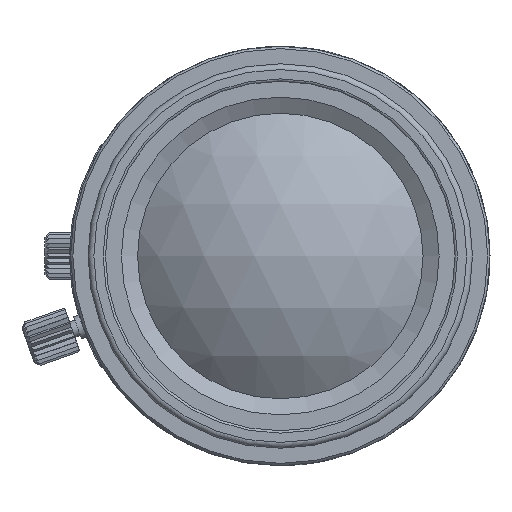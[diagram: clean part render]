
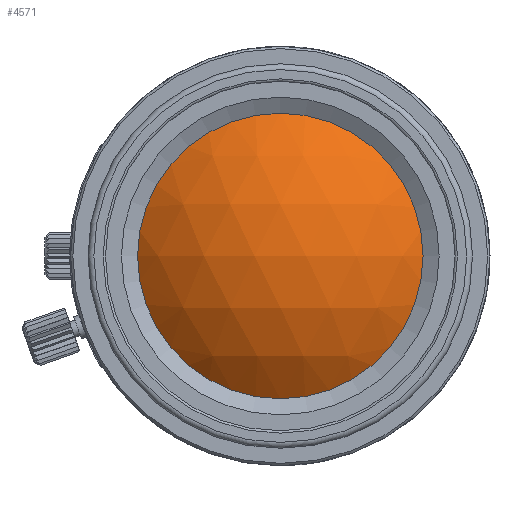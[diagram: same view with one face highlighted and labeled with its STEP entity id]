
A CAD part, left-side view. The second image highlights one B-rep face of the part: STEP entity #4571.
In plain terms, the highlighted spherical face has radius 18.448 mm.
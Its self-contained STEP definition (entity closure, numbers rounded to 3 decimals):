
#32=SPHERICAL_SURFACE('',#4939,18.448);
#241=CIRCLE('',#4940,12.25);
#1244=ORIENTED_EDGE('',*,*,#2518,.T.);
#2518=EDGE_CURVE('',#3141,#3141,#241,.T.);
#3141=VERTEX_POINT('',#7694);
#3683=EDGE_LOOP('',(#1244));
#4067=FACE_BOUND('',#3683,.T.);
#4571=ADVANCED_FACE('',(#4067),#32,.T.);
#4939=AXIS2_PLACEMENT_3D('',#7692,#5651,#5652);
#4940=AXIS2_PLACEMENT_3D('',#7693,#5653,#5654);
#5651=DIRECTION('',(0.,0.,-1.));
#5652=DIRECTION('',(0.,1.,0.));
#5653=DIRECTION('',(-1.,0.,0.));
#5654=DIRECTION('',(0.,0.,-1.));
#7692=CARTESIAN_POINT('',(-52.99,0.,0.));
#7693=CARTESIAN_POINT('',(-66.784,0.,0.));
#7694=CARTESIAN_POINT('',(-66.784,0.,-12.25));
